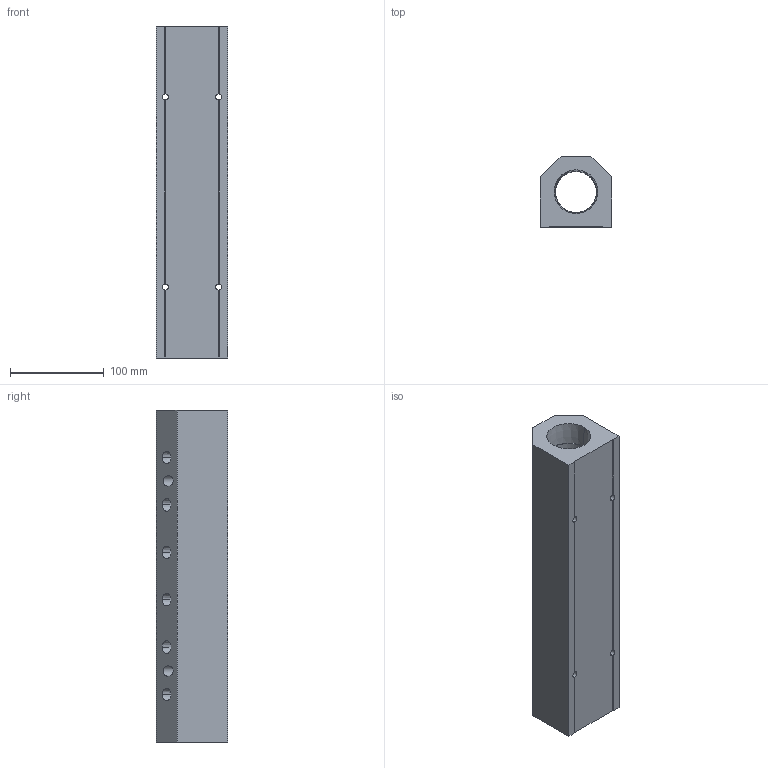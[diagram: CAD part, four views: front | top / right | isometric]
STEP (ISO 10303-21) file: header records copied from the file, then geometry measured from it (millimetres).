
FILE_DESCRIPTION (( 'STEP AP214' ), '1' );
FILE_NAME ('ALM6BD-N4N24-355B.step', '2022-02-07T07:46:24', ( '' ), ( '' ), 'SwSTEP 2.0', 'SolidWorks 2020', '' );
FILE_SCHEMA (( 'AUTOMOTIVE_DESIGN' ));
Length unit declared in the file: millimetre
Products named in the file (1): ALM6BD-N4N24-355B
Bounding box: 76.2 x 76.2 x 355 mm (x, y, z)
Volume: 1294172.7 mm3; surface area: 166172.6 mm2
Topology: 1 solids, 1 shells, 336 faces, 892 edges, 592 vertices
Faces by surface type: plane 217, bspline 73, cone 28, cylinder 18
Entity records: 18970 total; most frequent: CARTESIAN_POINT 7898, ORIENTED_EDGE 1784, DIRECTION 1294, EDGE_CURVE 892, LINE 646, VECTOR 646, VERTEX_POINT 592, EDGE_LOOP 404
